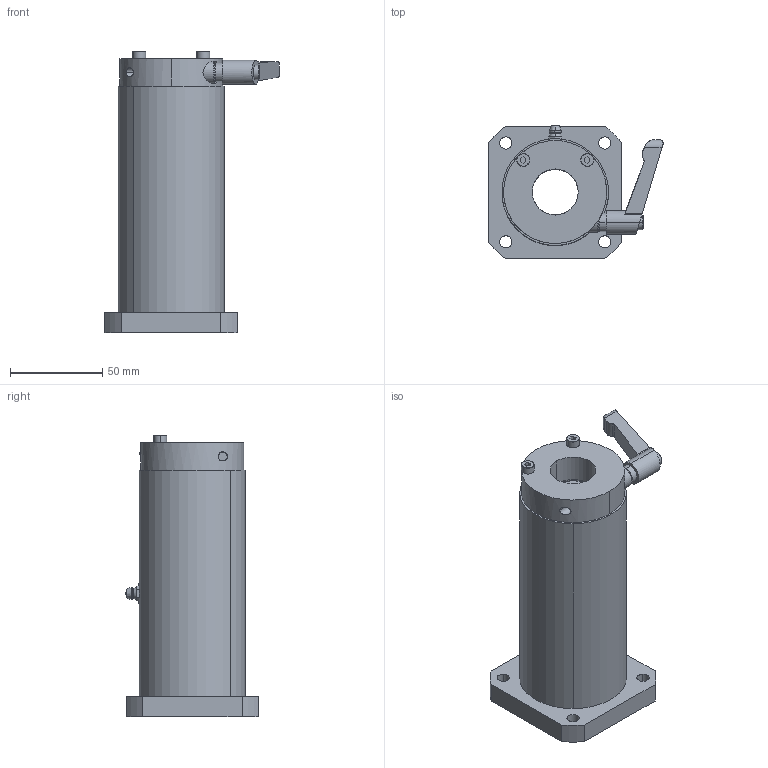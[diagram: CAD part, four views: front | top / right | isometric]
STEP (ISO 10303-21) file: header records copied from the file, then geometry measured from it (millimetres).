
FILE_DESCRIPTION (( 'STEP AP214' ), '1' );
FILE_NAME ('LFWK25-OH-C.STEP', '2023-06-27T02:11:04', ( '' ), ( '' ), 'SwSTEP 2.0', 'SolidWorks 2019', '' );
FILE_SCHEMA (( 'AUTOMOTIVE_DESIGN' ));
Length unit declared in the file: millimetre
Products named in the file (3): LFWK25-OH-C; LFWK25-OH; “ÁSCK2515CO-S4.5
Assembly tree (2 placements, depth 2):
  LFWK25-OH-C
    LFWK25-OH
    “ÁSCK2515CO-S4.5
Bounding box: 94.6 x 72.4 x 153 mm (x, y, z)
Volume: 341408.4 mm3; surface area: 65905.6 mm2
Topology: 3 solids, 9 shells, 233 faces, 587 edges, 369 vertices
Faces by surface type: cylinder 83, plane 71, bspline 47, cone 20, torus 8, sphere 4
Entity records: 10575 total; most frequent: CARTESIAN_POINT 2304, DIRECTION 1221, ORIENTED_EDGE 1170, EDGE_CURVE 585, AXIS2_PLACEMENT_3D 511, VERTEX_POINT 368, CIRCLE 320, EDGE_LOOP 279
